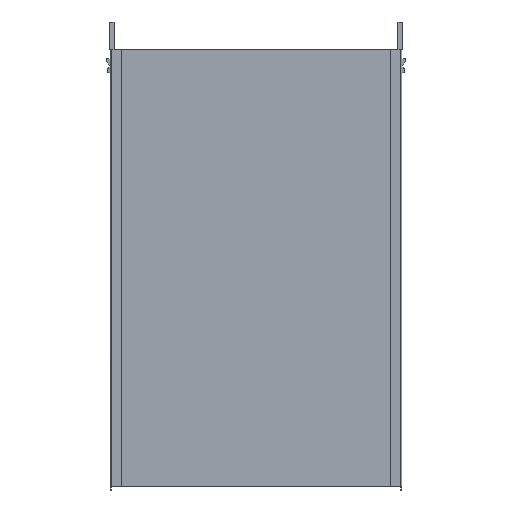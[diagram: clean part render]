
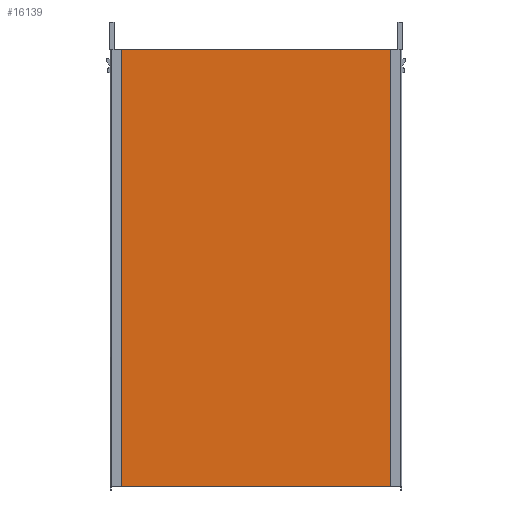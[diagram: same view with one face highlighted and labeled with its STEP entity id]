
A CAD part, front view. The second image highlights one B-rep face of the part: STEP entity #16139.
In plain terms, the highlighted planar face has unit normal (0, -1, 0).
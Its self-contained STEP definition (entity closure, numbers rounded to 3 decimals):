
#15=DIRECTION('',(1.,0.,0.));
#16=VECTOR('',#15,495.);
#17=CARTESIAN_POINT('',(-247.5,0.2,0.));
#18=LINE('',#17,#16);
#1918=DIRECTION('',(1.,0.,0.));
#1919=VECTOR('',#1918,495.);
#1920=CARTESIAN_POINT('',(-247.5,0.2,805.));
#1921=LINE('',#1920,#1919);
#5692=DIRECTION('',(0.,0.,-1.));
#5693=VECTOR('',#5692,805.);
#5694=CARTESIAN_POINT('',(247.5,0.2,805.));
#5695=LINE('',#5694,#5693);
#5696=DIRECTION('',(0.,0.,-1.));
#5697=VECTOR('',#5696,805.);
#5698=CARTESIAN_POINT('',(-247.5,0.2,805.));
#5699=LINE('',#5698,#5697);
#5973=CARTESIAN_POINT('',(247.5,0.2,0.));
#5975=VERTEX_POINT('',#5973);
#5977=CARTESIAN_POINT('',(-247.5,0.2,0.));
#5979=VERTEX_POINT('',#5977);
#5981=CARTESIAN_POINT('',(247.5,0.2,805.));
#5983=VERTEX_POINT('',#5981);
#5985=CARTESIAN_POINT('',(-247.5,0.2,805.));
#5987=VERTEX_POINT('',#5985);
#16127=CARTESIAN_POINT('',(-268.5,0.2,0.));
#16128=DIRECTION('',(0.,-1.,0.));
#16129=DIRECTION('',(1.,0.,0.));
#16130=AXIS2_PLACEMENT_3D('',#16127,#16128,#16129);
#16131=PLANE('',#16130);
#16132=ORIENTED_EDGE('',*,*,#16120,.T.);
#16133=ORIENTED_EDGE('',*,*,#7959,.F.);
#16135=ORIENTED_EDGE('',*,*,#16134,.F.);
#16136=ORIENTED_EDGE('',*,*,#8277,.T.);
#16137=EDGE_LOOP('',(#16132,#16133,#16135,#16136));
#16138=FACE_OUTER_BOUND('',#16137,.F.);
#16139=ADVANCED_FACE('',(#16138),#16131,.T.);
#7959=EDGE_CURVE('',#5979,#5975,#18,.T.);
#8277=EDGE_CURVE('',#5987,#5983,#1921,.T.);
#16120=EDGE_CURVE('',#5983,#5975,#5695,.T.);
#16134=EDGE_CURVE('',#5987,#5979,#5699,.T.);
